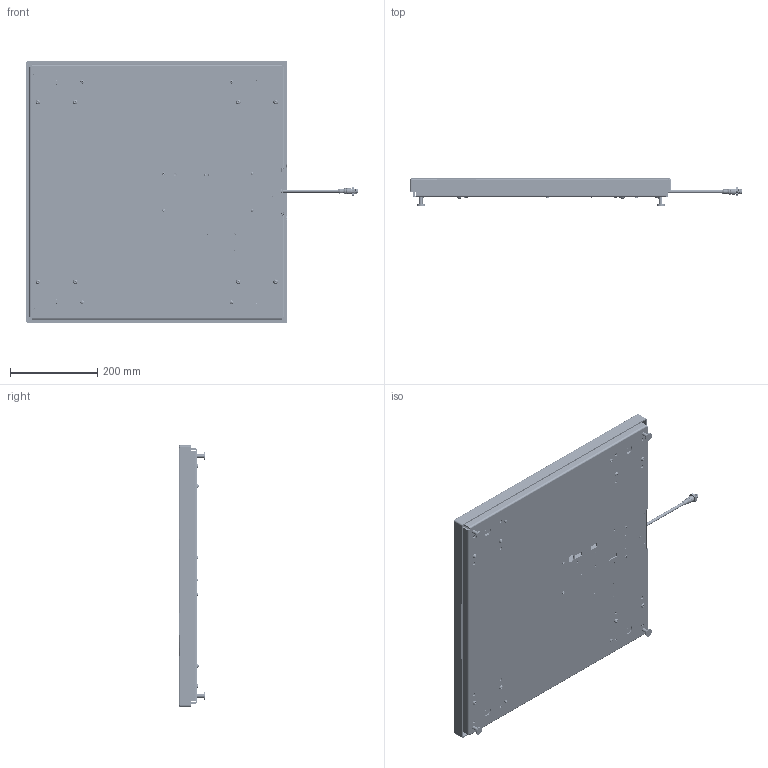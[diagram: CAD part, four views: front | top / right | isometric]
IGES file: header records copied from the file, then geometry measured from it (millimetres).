
Start section: SolidWorks IGES file using analytic representation for surfaces
Global section: file name: C:\0_Work\SolidWorks\~0_E-Scales\24x24\HI2424SBD-330.IGS; native system: SolidWorks 2017; preprocessor: SolidWorks 2017; author: vach01; date: 190815.113234; units: millimetre
Bounding box: 762.12 x 61.68 x 600 mm (x, y, z)
Surface area: 1943002.8 mm2 (no closed solid volume)
Topology: 0 solids, 0 shells, 12578 faces, 113257 edges, 113105 vertices
Faces by surface type: bspline 9257, revolution 3321
